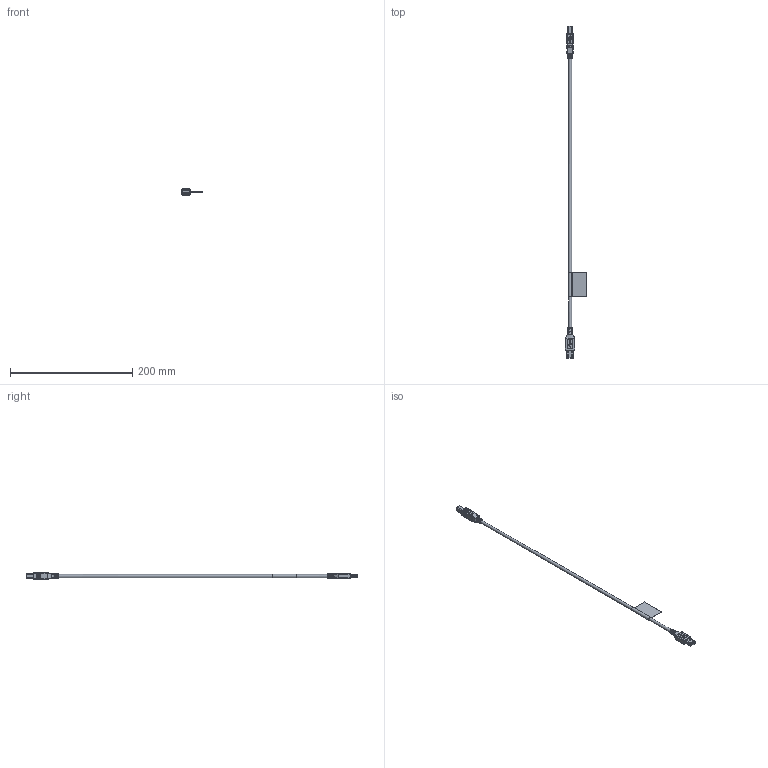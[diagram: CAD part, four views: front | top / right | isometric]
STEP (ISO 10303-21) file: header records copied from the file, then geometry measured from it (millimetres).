
FILE_DESCRIPTION(/* description */ (''),/* implementation_level */ '2;1');
FILE_NAME(/* name */ 'C:\Users\EugenL\Desktop\C9900-Kabel-Steps\C9900-Kxxx_8.stp',/* time_stamp */ '2023-03-13T09:51:07+01:00',/* author */ ('EugenL'),/* organization */ (''),/* preprocessor_version */ 'ST-DEVELOPER v18.1',/* originating_system */ 'Autodesk Inventor 2022',/* authorisation */ '');
FILE_SCHEMA (('AUTOMOTIVE_DESIGN { 1 0 10303 214 3 1 1 }'));
Length unit declared in the file: millimetre
Products named in the file (1): Kabel-USB-A-B_DS
Bounding box: 35.4 x 543.77 x 10.5 mm (x, y, z)
Volume: 17129.9 mm3; surface area: 14735.3 mm2
Topology: 1 solids, 1 shells, 536 faces, 1445 edges, 925 vertices
Faces by surface type: plane 349, cylinder 120, bspline 46, sphere 20, cone 1
Full cylindrical faces by diameter (mm): 1 x2, 5 x1, 7.317 x1, 7.5 x1
Entity records: 19215 total; most frequent: CARTESIAN_POINT 5182, ORIENTED_EDGE 2862, DIRECTION 2718, EDGE_CURVE 1431, LINE 960, VECTOR 960, VERTEX_POINT 925, AXIS2_PLACEMENT_3D 879
